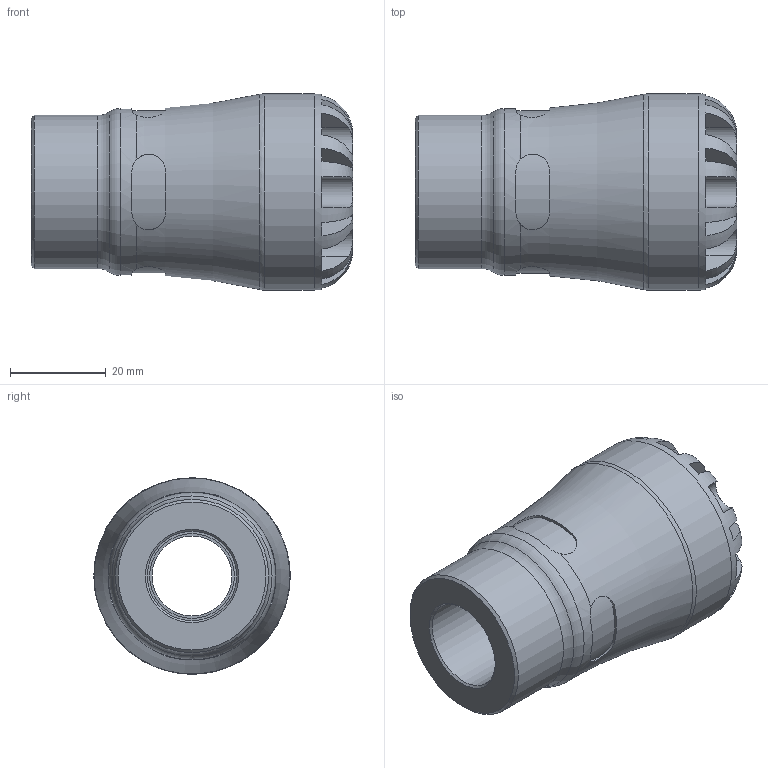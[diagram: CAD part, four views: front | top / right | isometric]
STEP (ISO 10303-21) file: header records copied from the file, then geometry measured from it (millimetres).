
FILE_DESCRIPTION(/* description */ ('PLASSON FEMALE ADAPTOR 20X1/2" SERIES 1'),/* implementation_level */ '2;1');
FILE_NAME(/* name */ 'C:\Dropbox\KIMPROJECTS-Inventor\99-16-3568-Processing\1003\100300020005_190300020005.ipt.step',/* time_stamp */ '2017-01-22T09:49:02+02:00',/* author */ ('KIM'),/* organization */ (''),/* preprocessor_version */ 'ST-DEVELOPER v15.6',/* originating_system */ 'Autodesk Inventor 2015',/* authorisation */ '');
FILE_SCHEMA (('AUTOMOTIVE_DESIGN { 1 0 10303 214 3 1 1 }'));
Length unit declared in the file: millimetre
Products named in the file (1): 100300020005_190300020005
Bounding box: 67 x 41 x 41 mm (x, y, z)
Volume: 47497.1 mm3; surface area: 14285.2 mm2
Topology: 1 solids, 1 shells, 104 faces, 265 edges, 166 vertices
Faces by surface type: plane 61, cylinder 35, torus 5, cone 3
Full cylindrical faces by diameter (mm): 16.667 x1, 17.699 x1, 18.631 x1, 20 x1, 31.98 x1, 34.85 x1, 41 x1
Entity records: 3934 total; most frequent: CARTESIAN_POINT 1443, ORIENTED_EDGE 492, DIRECTION 478, EDGE_CURVE 246, AXIS2_PLACEMENT_3D 199, VERTEX_POINT 162, EDGE_LOOP 124, STYLED_ITEM 105
